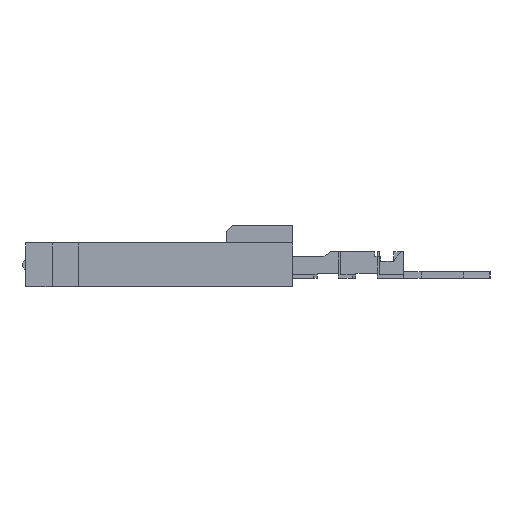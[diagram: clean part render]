
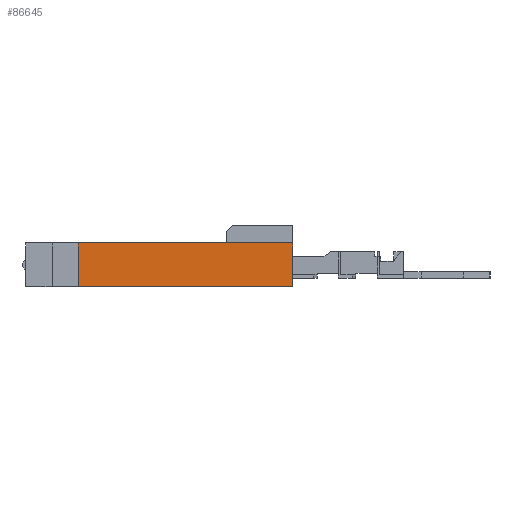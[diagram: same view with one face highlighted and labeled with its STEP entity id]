
A CAD part, left-side view. The second image highlights one B-rep face of the part: STEP entity #86645.
In plain terms, the highlighted planar face has unit normal (-1, 0, 0).
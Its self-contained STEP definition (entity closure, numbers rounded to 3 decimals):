
#329=DIRECTION('',(0.,0.,1.));
#330=VECTOR('',#329,2.51);
#331=CARTESIAN_POINT('',(-27.925,-7.62,-1.255));
#332=LINE('',#331,#330);
#27769=DIRECTION('',(0.,1.,0.));
#27770=VECTOR('',#27769,12.24);
#27771=CARTESIAN_POINT('',(-27.925,-7.62,1.255));
#27772=LINE('',#27771,#27770);
#29161=DIRECTION('',(0.,0.,1.));
#29162=VECTOR('',#29161,2.51);
#29163=CARTESIAN_POINT('',(-27.925,4.62,-1.255));
#29164=LINE('',#29163,#29162);
#29165=DIRECTION('',(0.,1.,0.));
#29166=VECTOR('',#29165,12.24);
#29167=CARTESIAN_POINT('',(-27.925,-7.62,-1.255));
#29168=LINE('',#29167,#29166);
#34013=CARTESIAN_POINT('',(-27.925,-7.62,-1.255));
#34014=CARTESIAN_POINT('',(-27.925,-7.62,1.255));
#34015=VERTEX_POINT('',#34013);
#34016=VERTEX_POINT('',#34014);
#35135=CARTESIAN_POINT('',(-27.925,4.62,-1.255));
#35136=CARTESIAN_POINT('',(-27.925,4.62,1.255));
#35137=VERTEX_POINT('',#35135);
#35138=VERTEX_POINT('',#35136);
#86634=CARTESIAN_POINT('',(-27.925,-7.62,-1.255));
#86635=DIRECTION('',(-1.,0.,0.));
#86636=DIRECTION('',(0.,0.,1.));
#86637=AXIS2_PLACEMENT_3D('',#86634,#86635,#86636);
#86638=PLANE('',#86637);
#86639=ORIENTED_EDGE('',*,*,#86626,.T.);
#86640=ORIENTED_EDGE('',*,*,#83928,.F.);
#86641=ORIENTED_EDGE('',*,*,#45402,.F.);
#86642=ORIENTED_EDGE('',*,*,#45658,.T.);
#86643=EDGE_LOOP('',(#86639,#86640,#86641,#86642));
#86644=FACE_OUTER_BOUND('',#86643,.F.);
#86645=ADVANCED_FACE('',(#86644),#86638,.T.);
#45402=EDGE_CURVE('',#34015,#34016,#332,.T.);
#45658=EDGE_CURVE('',#34015,#35137,#29168,.T.);
#83928=EDGE_CURVE('',#34016,#35138,#27772,.T.);
#86626=EDGE_CURVE('',#35137,#35138,#29164,.T.);
